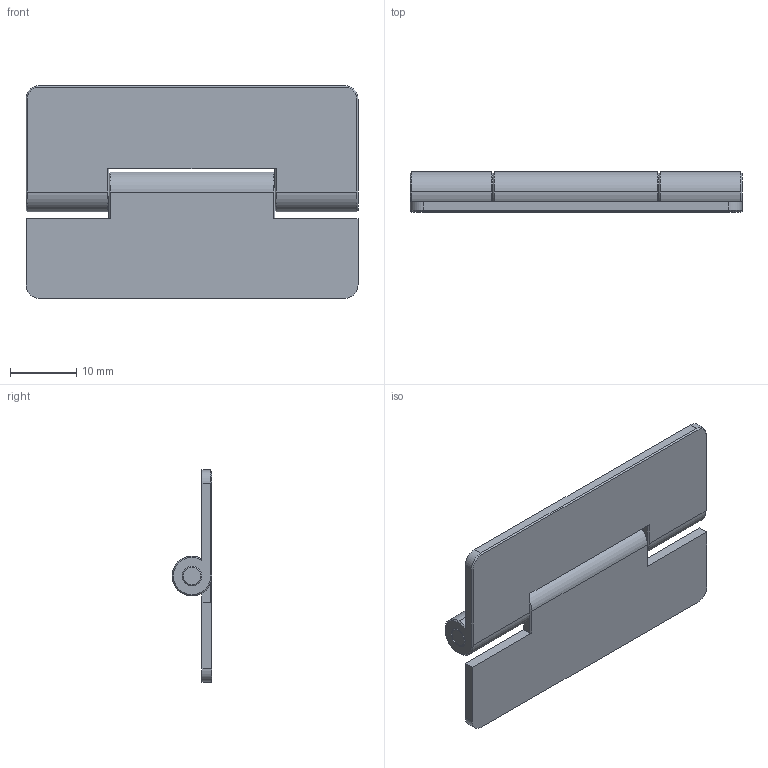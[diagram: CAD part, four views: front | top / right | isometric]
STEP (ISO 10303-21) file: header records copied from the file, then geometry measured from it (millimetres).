
FILE_DESCRIPTION (( 'STEP AP203' ), '1' );
FILE_NAME ('S0730.AW0050.step', '2019-03-29T21:11:43', ( '' ), ( '' ), 'SwSTEP 2.0', 'SolidWorks 2017', '' );
FILE_SCHEMA (( 'CONFIG_CONTROL_DESIGN' ));
Length unit declared in the file: millimetre
Products named in the file (4): Part1_S0730.AW0050; Part3_S0730.AW0050; S0730.AW0050; Part2_S0730.AW0050
Assembly tree (3 placements, depth 2):
  S0730.AW0050
    Part1_S0730.AW0050
    Part2_S0730.AW0050
    Part3_S0730.AW0050
Bounding box: 50 x 6 x 32 mm (x, y, z)
Volume: 3385 mm3; surface area: 4842.7 mm2
Topology: 3 solids, 3 shells, 71 faces, 169 edges, 104 vertices
Faces by surface type: plane 26, cone 24, cylinder 21
Entity records: 2473 total; most frequent: DIRECTION 383, CARTESIAN_POINT 368, ORIENTED_EDGE 338, EDGE_CURVE 169, AXIS2_PLACEMENT_3D 143, VERTEX_POINT 104, VECTOR 97, LINE 97
